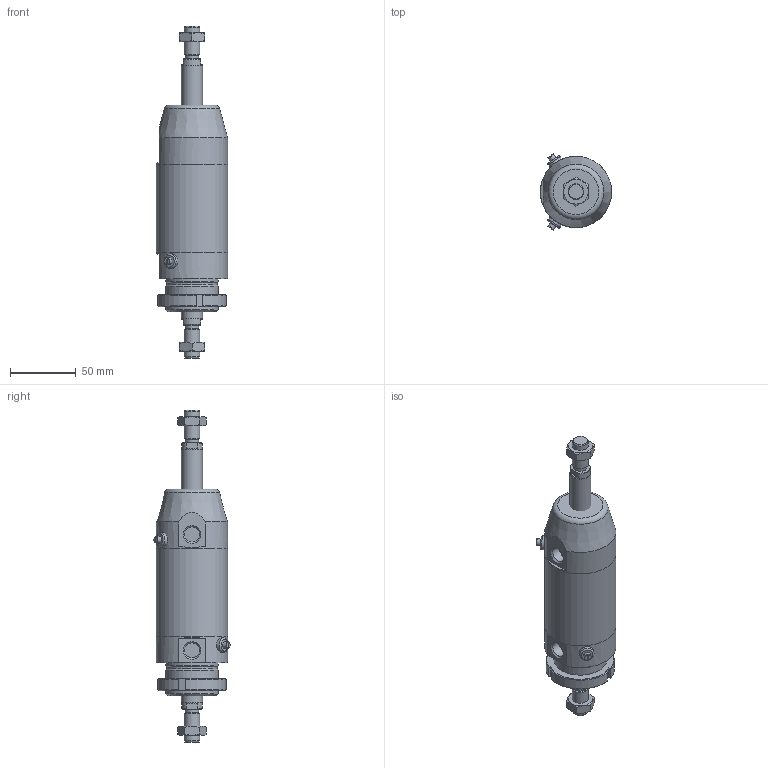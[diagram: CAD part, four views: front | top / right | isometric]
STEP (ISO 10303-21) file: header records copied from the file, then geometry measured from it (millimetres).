
FILE_DESCRIPTION(/* description */ (''),/* implementation_level */ '2;1');
FILE_NAME(/* name */ 'I:\Area Tecnica\Documenti\A-Manieri\_Inventor\12X\12X#T_###_####_#_#\12XDT_050_0025_#_#.stp',/* time_stamp */ '2015-05-13T09:08:44+02:00',/* author */ ('maniean1'),/* organization */ ('Pneumax S.p.A.'),/* preprocessor_version */ 'ST-DEVELOPER v15.2',/* originating_system */ 'Autodesk Inventor 2014',/* authorisation */ '');
FILE_SCHEMA (('AUTOMOTIVE_DESIGN { 1 0 10303 214 3 1 1 }'));
Length unit declared in the file: millimetre
Products named in the file (7): C1250_619-0025; 12X50_606; SP12X50_0025; 12X_50_11; 12X50_614; G12X_050_05; 12XDT_050_0025_#_#
Bounding box: 54 x 57.75 x 252 mm (x, y, z)
Volume: 302689.2 mm3; surface area: 75399.7 mm2
Topology: 7 solids, 7 shells, 125 faces, 281 edges, 181 vertices
Faces by surface type: plane 66, cylinder 30, cone 26, torus 3
Full cylindrical faces by diameter (mm): 5 x2, 10.2 x2, 11 x2, 11.4 x2, 12 x4, 14 x2, 15.6 x2, 16 x2, 38.2 x1, 40 x3, 50 x2, 54 x3
Entity records: 3058 total; most frequent: CARTESIAN_POINT 614, DIRECTION 513, ORIENTED_EDGE 402, AXIS2_PLACEMENT_3D 219, EDGE_CURVE 201, EDGE_LOOP 178, VERTEX_POINT 153, ADVANCED_FACE 114
